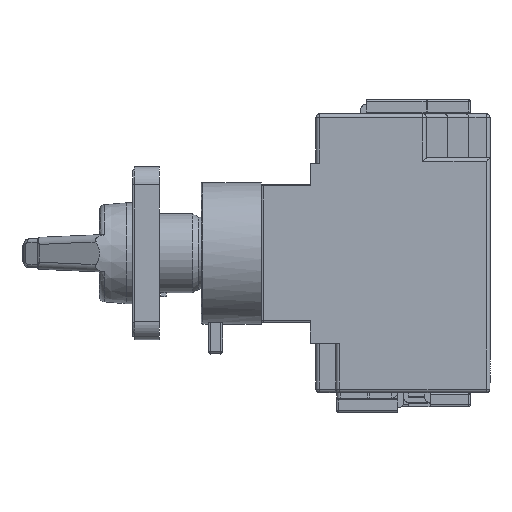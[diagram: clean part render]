
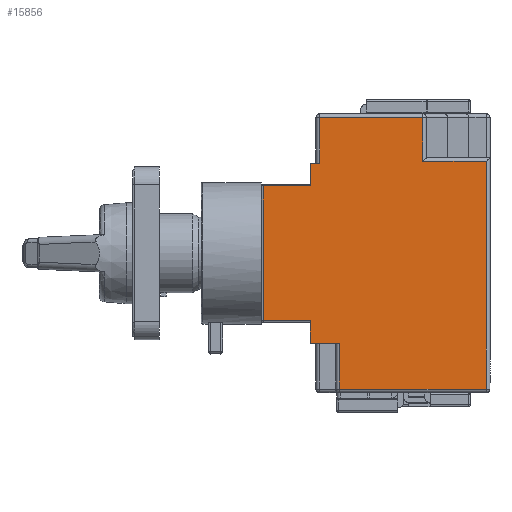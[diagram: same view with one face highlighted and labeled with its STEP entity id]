
A CAD part, left-side view. The second image highlights one B-rep face of the part: STEP entity #15856.
In plain terms, the highlighted planar face has unit normal (-1, 0, 0).
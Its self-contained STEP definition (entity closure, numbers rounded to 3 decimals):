
#198 = VECTOR ( 'NONE', #28969, 1000. ) ;
#671 = DIRECTION ( 'NONE',  ( 0., 1., 0. ) ) ;
#934 = PLANE ( 'NONE',  #24631 ) ;
#1390 = ORIENTED_EDGE ( 'NONE', *, *, #8526, .T. ) ;
#1992 = DIRECTION ( 'NONE',  ( 0., 1., 0. ) ) ;
#2200 = CARTESIAN_POINT ( 'NONE',  ( -90.75, 49.9, -25. ) ) ;
#2244 = CARTESIAN_POINT ( 'NONE',  ( -90.75, 18.7, 37.7 ) ) ;
#2371 = LINE ( 'NONE', #19315, #27120 ) ;
#2664 = CARTESIAN_POINT ( 'NONE',  ( -90.75, 1., 26.5 ) ) ;
#2731 = VECTOR ( 'NONE', #15037, 1000. ) ;
#3051 = LINE ( 'NONE', #4383, #15460 ) ;
#3224 = EDGE_CURVE ( 'NONE', #8643, #27488, #10236, .T. ) ;
#3254 = EDGE_LOOP ( 'NONE', ( #3490, #1390, #32047, #10142, #31535, #14762, #6594, #21086, #21209, #30356, #10375, #24388, #13601, #3867 ) ) ;
#3484 = CARTESIAN_POINT ( 'NONE',  ( -90.75, 63., -19.2 ) ) ;
#3490 = ORIENTED_EDGE ( 'NONE', *, *, #11344, .F. ) ;
#3633 = VERTEX_POINT ( 'NONE', #7971 ) ;
#3867 = ORIENTED_EDGE ( 'NONE', *, *, #15396, .F. ) ;
#4383 = CARTESIAN_POINT ( 'NONE',  ( -90.75, 49.9, 25. ) ) ;
#4427 = LINE ( 'NONE', #5629, #11812 ) ;
#4445 = DIRECTION ( 'NONE',  ( 0., -1., 0. ) ) ;
#5144 = DIRECTION ( 'NONE',  ( 0., 0., 1. ) ) ;
#5258 = CARTESIAN_POINT ( 'NONE',  ( -90.75, 49.9, 18.7 ) ) ;
#5270 = VECTOR ( 'NONE', #23298, 1000. ) ;
#5629 = CARTESIAN_POINT ( 'NONE',  ( -90.75, 17.7, 25.5 ) ) ;
#5890 = DIRECTION ( 'NONE',  ( -1., 0., 0. ) ) ;
#5946 = VERTEX_POINT ( 'NONE', #7771 ) ;
#5959 = VECTOR ( 'NONE', #16113, 1000. ) ;
#6594 = ORIENTED_EDGE ( 'NONE', *, *, #16163, .T. ) ;
#6688 = VECTOR ( 'NONE', #4445, 1000. ) ;
#6756 = DIRECTION ( 'NONE',  ( 0., 1., 0. ) ) ;
#6804 = LINE ( 'NONE', #26481, #198 ) ;
#7260 = EDGE_CURVE ( 'NONE', #23248, #7961, #18489, .T. ) ;
#7748 = LINE ( 'NONE', #24781, #26709 ) ;
#7771 = CARTESIAN_POINT ( 'NONE',  ( -90.75, 41.8, -25. ) ) ;
#7961 = VERTEX_POINT ( 'NONE', #31960 ) ;
#7971 = CARTESIAN_POINT ( 'NONE',  ( -90.75, 41.8, -37.7 ) ) ;
#8526 = EDGE_CURVE ( 'NONE', #5946, #3633, #15675, .T. ) ;
#8643 = VERTEX_POINT ( 'NONE', #25023 ) ;
#8731 = EDGE_CURVE ( 'NONE', #18956, #8643, #4427, .T. ) ;
#9104 = VECTOR ( 'NONE', #14663, 1000. ) ;
#9468 = VECTOR ( 'NONE', #15639, 1000. ) ;
#10142 = ORIENTED_EDGE ( 'NONE', *, *, #31233, .T. ) ;
#10236 = LINE ( 'NONE', #22982, #9468 ) ;
#10375 = ORIENTED_EDGE ( 'NONE', *, *, #26468, .T. ) ;
#11344 = EDGE_CURVE ( 'NONE', #5946, #30054, #7748, .T. ) ;
#11801 = CARTESIAN_POINT ( 'NONE',  ( -90.75, 1., 25.5 ) ) ;
#11812 = VECTOR ( 'NONE', #671, 1000. ) ;
#11957 = EDGE_CURVE ( 'NONE', #12537, #26359, #29059, .T. ) ;
#11970 = CARTESIAN_POINT ( 'NONE',  ( -90.75, 49.9, -18.7 ) ) ;
#12196 = CARTESIAN_POINT ( 'NONE',  ( -90.75, 41.8, -38.7 ) ) ;
#12537 = VERTEX_POINT ( 'NONE', #25348 ) ;
#13582 = CARTESIAN_POINT ( 'NONE',  ( -90.75, 49.9, 19.2 ) ) ;
#13601 = ORIENTED_EDGE ( 'NONE', *, *, #26895, .T. ) ;
#13894 = CARTESIAN_POINT ( 'NONE',  ( -90.75, 47.3, 25. ) ) ;
#14495 = VECTOR ( 'NONE', #1992, 1000. ) ;
#14663 = DIRECTION ( 'NONE',  ( 0., 0., -1. ) ) ;
#14762 = ORIENTED_EDGE ( 'NONE', *, *, #3224, .T. ) ;
#15037 = DIRECTION ( 'NONE',  ( 0., 0., -1. ) ) ;
#15396 = EDGE_CURVE ( 'NONE', #30054, #17848, #6804, .T. ) ;
#15460 = VECTOR ( 'NONE', #24197, 1000. ) ;
#15639 = DIRECTION ( 'NONE',  ( 0., 0., 1. ) ) ;
#15675 = LINE ( 'NONE', #12196, #9104 ) ;
#15856 = ADVANCED_FACE ( 'NONE', ( #20734 ), #934, .T. ) ;
#15938 = EDGE_CURVE ( 'NONE', #20784, #17185, #25706, .T. ) ;
#16113 = DIRECTION ( 'NONE',  ( 0., 0., 1. ) ) ;
#16163 = EDGE_CURVE ( 'NONE', #27488, #12537, #20321, .T. ) ;
#16464 = EDGE_CURVE ( 'NONE', #3633, #27370, #18368, .T. ) ;
#16813 = CARTESIAN_POINT ( 'NONE',  ( -90.75, 49.9, -18.7 ) ) ;
#17185 = VERTEX_POINT ( 'NONE', #29891 ) ;
#17573 = VECTOR ( 'NONE', #25768, 1000. ) ;
#17787 = CARTESIAN_POINT ( 'NONE',  ( -90.75, 63., 18.7 ) ) ;
#17811 = EDGE_CURVE ( 'NONE', #17185, #26359, #3051, .T. ) ;
#17848 = VERTEX_POINT ( 'NONE', #11970 ) ;
#18368 = LINE ( 'NONE', #28239, #17573 ) ;
#18489 = LINE ( 'NONE', #3484, #5270 ) ;
#18956 = VERTEX_POINT ( 'NONE', #11801 ) ;
#19181 = CARTESIAN_POINT ( 'NONE',  ( -90.75, 1., -37.7 ) ) ;
#19219 = LINE ( 'NONE', #2664, #31533 ) ;
#19315 = CARTESIAN_POINT ( 'NONE',  ( -90.75, 63.5, 18.7 ) ) ;
#19340 = CARTESIAN_POINT ( 'NONE',  ( -90.75, 48.3, 37.7 ) ) ;
#20321 = LINE ( 'NONE', #19340, #14495 ) ;
#20734 = FACE_OUTER_BOUND ( 'NONE', #3254, .T. ) ;
#20776 = CARTESIAN_POINT ( 'NONE',  ( -90.75, 48.3, -38.7 ) ) ;
#20784 = VERTEX_POINT ( 'NONE', #5258 ) ;
#21086 = ORIENTED_EDGE ( 'NONE', *, *, #11957, .T. ) ;
#21209 = ORIENTED_EDGE ( 'NONE', *, *, #17811, .F. ) ;
#22511 = CARTESIAN_POINT ( 'NONE',  ( -90.75, 47.3, 25. ) ) ;
#22982 = CARTESIAN_POINT ( 'NONE',  ( -90.75, 18.7, 38.7 ) ) ;
#23225 = DIRECTION ( 'NONE',  ( 0., 0., 1. ) ) ;
#23248 = VERTEX_POINT ( 'NONE', #17787 ) ;
#23298 = DIRECTION ( 'NONE',  ( 0., 0., -1. ) ) ;
#23322 = LINE ( 'NONE', #16813, #6688 ) ;
#24197 = DIRECTION ( 'NONE',  ( 0., -1., 0. ) ) ;
#24388 = ORIENTED_EDGE ( 'NONE', *, *, #7260, .T. ) ;
#24631 = AXIS2_PLACEMENT_3D ( 'NONE', #20776, #5890, #23225 ) ;
#24781 = CARTESIAN_POINT ( 'NONE',  ( -90.75, 49.9, -25. ) ) ;
#25023 = CARTESIAN_POINT ( 'NONE',  ( -90.75, 18.7, 25.5 ) ) ;
#25348 = CARTESIAN_POINT ( 'NONE',  ( -90.75, 47.3, 37.7 ) ) ;
#25706 = LINE ( 'NONE', #13582, #5959 ) ;
#25768 = DIRECTION ( 'NONE',  ( 0., -1., 0. ) ) ;
#26359 = VERTEX_POINT ( 'NONE', #13894 ) ;
#26468 = EDGE_CURVE ( 'NONE', #20784, #23248, #2371, .T. ) ;
#26481 = CARTESIAN_POINT ( 'NONE',  ( -90.75, 49.9, -19.2 ) ) ;
#26709 = VECTOR ( 'NONE', #29729, 1000. ) ;
#26895 = EDGE_CURVE ( 'NONE', #7961, #17848, #23322, .T. ) ;
#27120 = VECTOR ( 'NONE', #6756, 1000. ) ;
#27370 = VERTEX_POINT ( 'NONE', #19181 ) ;
#27488 = VERTEX_POINT ( 'NONE', #2244 ) ;
#28239 = CARTESIAN_POINT ( 'NONE',  ( -90.75, 0., -37.7 ) ) ;
#28969 = DIRECTION ( 'NONE',  ( 0., 0., 1. ) ) ;
#29059 = LINE ( 'NONE', #22511, #2731 ) ;
#29729 = DIRECTION ( 'NONE',  ( 0., 1., 0. ) ) ;
#29891 = CARTESIAN_POINT ( 'NONE',  ( -90.75, 49.9, 25. ) ) ;
#30054 = VERTEX_POINT ( 'NONE', #2200 ) ;
#30356 = ORIENTED_EDGE ( 'NONE', *, *, #15938, .F. ) ;
#31233 = EDGE_CURVE ( 'NONE', #27370, #18956, #19219, .T. ) ;
#31533 = VECTOR ( 'NONE', #5144, 1000. ) ;
#31535 = ORIENTED_EDGE ( 'NONE', *, *, #8731, .T. ) ;
#31960 = CARTESIAN_POINT ( 'NONE',  ( -90.75, 63., -18.7 ) ) ;
#32047 = ORIENTED_EDGE ( 'NONE', *, *, #16464, .T. ) ;
